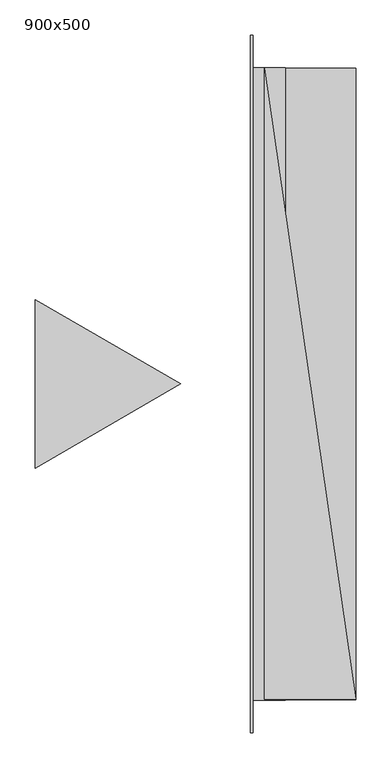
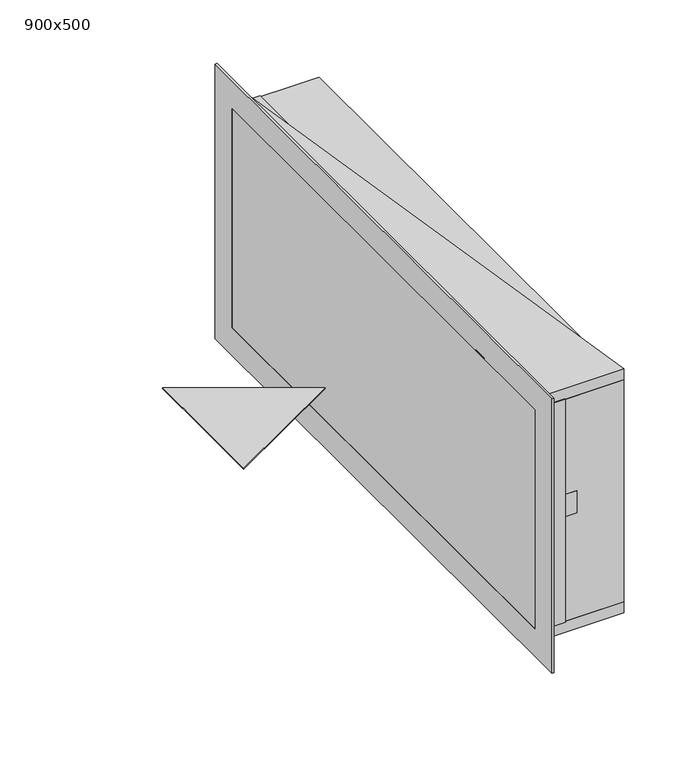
"""IFC4 building model written with IfcOpenShell, lengths in millimetres: air terminal geometry, Клапан ДУ прямоугольный стеновой : 900x500."""

from ifc_helpers import new_model, si_unit, point, frame, frame_2d, origin, place, context, project, spatial, polyline, circle_curve, trimmed, segment, composite_curve, outline, extrude, faceted_brep, source, transform, mapped, element, save


def air_terminal_900x500_583f1a94(model_context):
    return source(origin(), model_context, "Body", "SolidModel", [
        extrude(outline(polyline([(-382.8460969, -120.0), (-382.8460969, 0.0), (-382.8460969, 120.0), (-175.0, 0.0), (-382.8460969, -120.0)])), frame((0.0, 0.0, -1.0), z_axis=(0.0, 0.0, 1.0), x_axis=(1.0, 0.0, 0.0)), (0.0, 0.0, 1.0), 2.0),
        extrude(outline(composite_curve([segment(trimmed(circle_curve(frame_2d((8.3674271, -25.0)), 6.0), [point((8.3674271, -31.0))], [point((8.3674271, -19.0))], False, "CARTESIAN"), True, "CONTINUOUS"), segment(trimmed(circle_curve(frame_2d((8.3674271, -25.0)), 6.0), [point((8.3674271, -19.0))], [point((8.3674271, -31.0))], False, "CARTESIAN"), True, "CONTINUOUS")], self_intersect=False)), frame((0.0, -355.0, 0.0), z_axis=(0.0, 1.0, 0.0), x_axis=(0.0, 0.0, 1.0)), (0.0, 0.0, 1.0), 100.0),
        extrude(outline(polyline([(-5.669873, -390.5354596), (-5.669873, -395.5354596), (-10.0, -398.0354596), (-14.330127, -395.5354596), (-14.330127, -390.5354596), (-10.0, -388.0354596), (-5.669873, -390.5354596)])), frame((0.0, 0.0, -160.0), z_axis=(0.0, 0.0, 1.0), x_axis=(1.0, 0.0, 0.0)), (0.0, 0.0, 1.0), 20.0),
        extrude(outline(polyline([(-44.330127, -390.5354596), (-40.0, -388.0354596), (-35.669873, -390.5354596), (-35.669873, -395.5354596), (-40.0, -398.0354596), (-44.330127, -395.5354596), (-44.330127, -390.5354596)])), frame((0.0, 0.0, -160.0), z_axis=(0.0, 0.0, 1.0), x_axis=(1.0, 0.0, 0.0)), (0.0, 0.0, 1.0), 20.0),
        extrude(outline(polyline([(-5.0, -450.0), (-45.0, -450.0), (-45.0, -430.0), (-5.0, -430.0), (-5.0, -450.0)])), frame((0.0, 0.0, -11.6325729), z_axis=(0.0, 0.0, 1.0), x_axis=(1.0, 0.0, 0.0)), (0.0, 0.0, 1.0), 40.0),
        extrude(outline(composite_curve([segment(polyline([(40.0, 0.0), (40.0, -50.0)]), True, "CONTINUOUS"), segment(trimmed(circle_curve(frame_2d((25.0, -50.0)), 15.0), [point((40.0, -50.0))], [point((25.0, -65.0))], False, "CARTESIAN"), True, "CONTINUOUS"), segment(polyline([(25.0, -65.0), (-125.0, -65.0)]), True, "CONTINUOUS"), segment(trimmed(circle_curve(frame_2d((-125.0, -50.0)), 15.0), [point((-125.0, -65.0))], [point((-140.0, -50.0))], False, "CARTESIAN"), True, "CONTINUOUS"), segment(polyline([(-140.0, -50.0), (-140.0, 0.0)]), True, "CONTINUOUS"), segment(trimmed(circle_curve(frame_2d((-125.0, 0.0)), 15.0), [point((-140.0, 0.0))], [point((-125.0, 15.0))], False, "CARTESIAN"), True, "CONTINUOUS"), segment(polyline([(-125.0, 15.0), (25.0, 15.0)]), True, "CONTINUOUS"), segment(trimmed(circle_curve(frame_2d((25.0, 0.0)), 15.0), [point((25.0, 15.0))], [point((40.0, 0.0))], False, "CARTESIAN"), True, "CONTINUOUS")], self_intersect=False)), frame((0.0, -430.0, 0.0), z_axis=(0.0, 1.0, 0.0), x_axis=(0.0, 0.0, 1.0)), (0.0, 0.0, 1.0), 75.0),
        faceted_brep([(-75.0, -447.6138858, 197.6138858), (-25.0, -447.6138858, 197.6138858), (-25.0, -447.6138858, -197.6138858), (-75.0, -447.6138858, -197.6138858), (-71.5502892, -497.6138858, 247.6138858), (-75.0, -497.6138858, 247.6138858), (-75.0, -497.6138858, -247.6138858), (-71.5502892, -497.6138858, -247.6138858), (-25.0, -451.0635966, 201.0635966), (-71.5502892, -451.0635966, 201.0635966), (-71.5502892, -451.0635966, -201.0635966), (-25.0, -451.0635966, -201.0635966), (-25.0, 447.6138858, -197.6138858), (-75.0, 447.6138858, -197.6138858), (-75.0, 497.6138858, -247.6138858), (-71.5502892, 497.6138858, -247.6138858), (-71.5502892, 451.0635966, -201.0635966), (-25.0, 451.0635966, -201.0635966), (-25.0, 447.6138858, 197.6138858), (-75.0, 447.6138858, 197.6138858), (-75.0, 497.6138858, 247.6138858), (-71.5502892, 497.6138858, 247.6138858), (-71.5502892, 451.0635966, 201.0635966), (-25.0, 451.0635966, 201.0635966)], [[[0, 1, 2, 3]], [[4, 5, 6, 7]], [[8, 9, 10, 11]], [[3, 2, 12, 13]], [[7, 6, 14, 15]], [[11, 10, 16, 17]], [[13, 12, 18, 19]], [[15, 14, 20, 21]], [[17, 16, 22, 23]], [[19, 18, 1, 0]], [[5, 20, 14, 6], [3, 13, 19, 0]], [[21, 20, 5, 4]], [[7, 15, 21, 4], [9, 22, 16, 10]], [[23, 22, 9, 8]], [[11, 17, 23, 8], [1, 18, 12, 2]]]),
        extrude(outline(polyline([(75.0, 450.0), (75.0, -450.0), (-75.0, -450.0), (-75.0, 450.0), (75.0, 450.0)])), frame((0.0, 0.0, -200.0), z_axis=(0.0, 0.0, 1.0), x_axis=(1.0, 0.0, 0.0)), (0.0, 0.0, 1.0), 400.0),
        extrude(outline(polyline([(-55.0, -450.0), (-55.0, 450.0), (75.0, -450.0), (-55.0, -450.0)])), frame((0.0, 0.0, -220.0), z_axis=(0.0, 0.0, 1.0), x_axis=(1.0, 0.0, 0.0)), (0.0, 0.0, 1.0), 20.0),
        extrude(outline(polyline([(-55.0, -450.0), (-55.0, 450.0), (75.0, -450.0), (-55.0, -450.0)])), frame((0.0, 0.0, 200.0), z_axis=(0.0, 0.0, 1.0), x_axis=(1.0, 0.0, 0.0)), (0.0, 0.0, 1.0), 20.0),
    ])


if __name__ == "__main__":
    model = new_model("IFC4")
    model_context = context("Model", 3, world=origin())
    ifc_project = project(units=[si_unit("LENGTHUNIT", "METRE", prefix="MILLI")], contexts=[model_context])
    site = spatial("IfcSite", under=ifc_project)
    building = spatial("IfcBuilding", under=site)
    placement = place(None, origin())
    air_terminal_900x500_shape = air_terminal_900x500_583f1a94(model_context)
    element("IfcAirTerminal", 1, ObjectType="Клапан ДУ прямоугольный стеновой : 900x500", at=placement, inside=building, context=model_context, shape_type="MappedRepresentation", body=[
        mapped(air_terminal_900x500_shape, transform((0.0, 0.0, 0.0), x_axis=(1.0, 0.0, 0.0), y_axis=(0.0, 1.0, 0.0), z_axis=(0.0, 0.0, 1.0))),
    ])
    save(model, "model.ifc")
